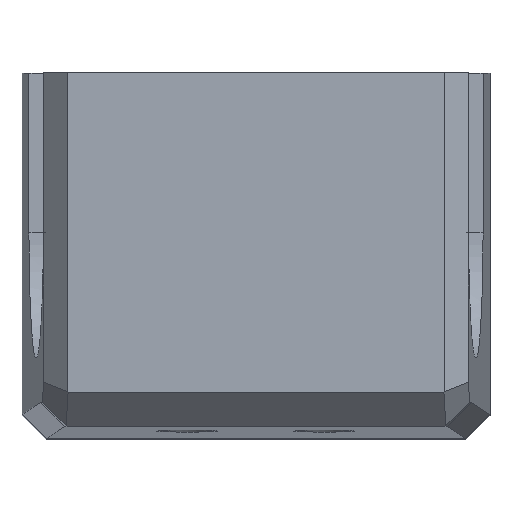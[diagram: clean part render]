
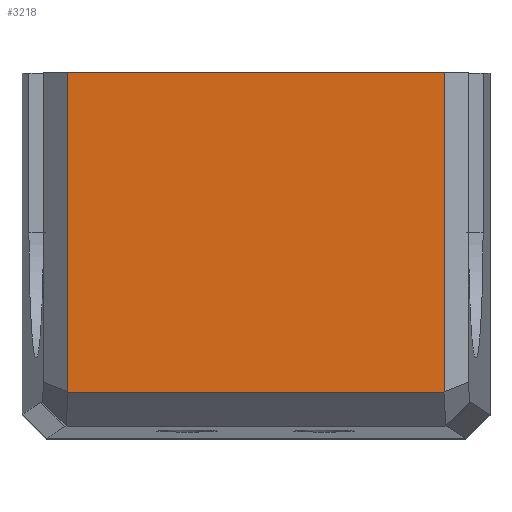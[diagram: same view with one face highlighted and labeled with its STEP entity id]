
A CAD part, top view. The second image highlights one B-rep face of the part: STEP entity #3218.
In plain terms, the highlighted planar face has unit normal (0, 0, 1).
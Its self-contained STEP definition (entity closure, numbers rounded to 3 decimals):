
#177=DIRECTION('',(1.,0.,0.));
#178=VECTOR('',#177,33.);
#179=CARTESIAN_POINT('',(-16.5,15.5,58.5));
#180=LINE('',#179,#178);
#1181=DIRECTION('',(0.578,0.816,0.));
#1182=VECTOR('',#1181,0.061);
#1183=CARTESIAN_POINT('',(16.465,-12.5,58.5));
#1184=LINE('',#1183,#1182);
#1185=DIRECTION('',(-1.,0.,0.));
#1186=VECTOR('',#1185,32.929);
#1187=CARTESIAN_POINT('',(16.465,-12.5,58.5));
#1188=LINE('',#1187,#1186);
#1189=DIRECTION('',(0.578,-0.816,0.));
#1190=VECTOR('',#1189,0.061);
#1191=CARTESIAN_POINT('',(-16.5,-12.45,58.5));
#1192=LINE('',#1191,#1190);
#1193=DIRECTION('',(0.,-1.,0.));
#1194=VECTOR('',#1193,27.95);
#1195=CARTESIAN_POINT('',(-16.5,15.5,58.5));
#1196=LINE('',#1195,#1194);
#1197=DIRECTION('',(0.,1.,0.));
#1198=VECTOR('',#1197,27.95);
#1199=CARTESIAN_POINT('',(16.5,-12.45,58.5));
#1200=LINE('',#1199,#1198);
#1787=CARTESIAN_POINT('',(16.465,-12.5,58.5));
#1788=CARTESIAN_POINT('',(16.5,-12.45,58.5));
#1789=VERTEX_POINT('',#1787);
#1790=VERTEX_POINT('',#1788);
#1793=CARTESIAN_POINT('',(16.5,15.5,58.5));
#1795=VERTEX_POINT('',#1793);
#1835=CARTESIAN_POINT('',(-16.5,-12.45,58.5));
#1836=CARTESIAN_POINT('',(-16.465,-12.5,58.5));
#1837=VERTEX_POINT('',#1835);
#1838=VERTEX_POINT('',#1836);
#1842=CARTESIAN_POINT('',(-16.5,15.5,58.5));
#1844=VERTEX_POINT('',#1842);
#3202=CARTESIAN_POINT('',(-20.5,-15.5,58.5));
#3203=DIRECTION('',(0.,0.,1.));
#3204=DIRECTION('',(1.,0.,0.));
#3205=AXIS2_PLACEMENT_3D('',#3202,#3203,#3204);
#3206=PLANE('',#3205);
#3207=ORIENTED_EDGE('',*,*,#3192,.F.);
#3208=ORIENTED_EDGE('',*,*,#3165,.T.);
#3210=ORIENTED_EDGE('',*,*,#3209,.F.);
#3212=ORIENTED_EDGE('',*,*,#3211,.F.);
#3213=ORIENTED_EDGE('',*,*,#2209,.T.);
#3215=ORIENTED_EDGE('',*,*,#3214,.F.);
#3216=EDGE_LOOP('',(#3207,#3208,#3210,#3212,#3213,#3215));
#3217=FACE_OUTER_BOUND('',#3216,.F.);
#3218=ADVANCED_FACE('',(#3217),#3206,.T.);
#2209=EDGE_CURVE('',#1844,#1795,#180,.T.);
#3165=EDGE_CURVE('',#1789,#1838,#1188,.T.);
#3192=EDGE_CURVE('',#1789,#1790,#1184,.T.);
#3209=EDGE_CURVE('',#1837,#1838,#1192,.T.);
#3211=EDGE_CURVE('',#1844,#1837,#1196,.T.);
#3214=EDGE_CURVE('',#1790,#1795,#1200,.T.);
